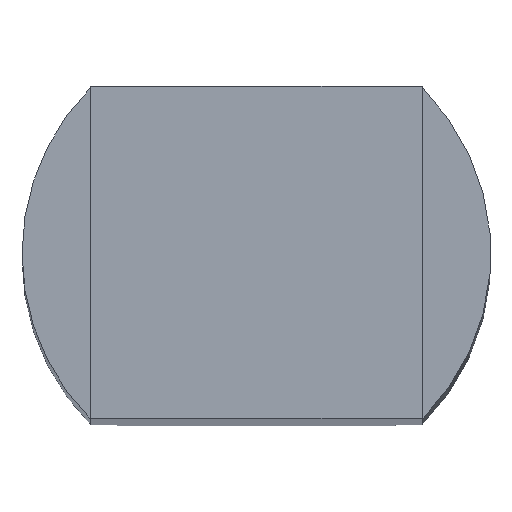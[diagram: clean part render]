
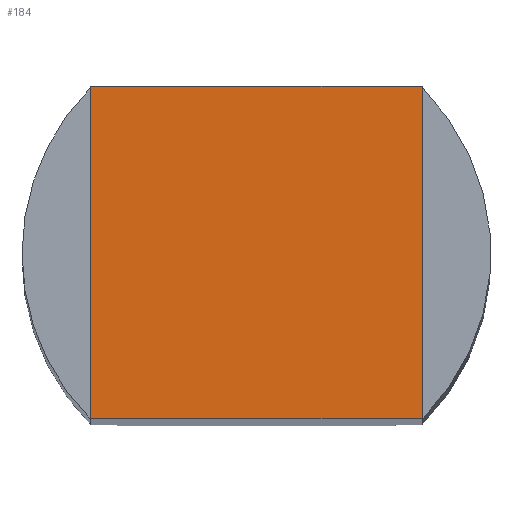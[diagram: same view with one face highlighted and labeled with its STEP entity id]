
A CAD part, top view. The second image highlights one B-rep face of the part: STEP entity #184.
In plain terms, the highlighted planar face has unit normal (0, 0, 1).
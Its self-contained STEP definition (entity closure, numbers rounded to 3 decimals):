
#3 = CARTESIAN_POINT ( 'NONE',  ( -2.296, -2.3, 58.3 ) ) ;
#7 = VERTEX_POINT ( 'NONE', #754 ) ;
#26 = CARTESIAN_POINT ( 'NONE',  ( -2.3, 2.296, 58.3 ) ) ;
#42 = CARTESIAN_POINT ( 'NONE',  ( 0., 0., 58.3 ) ) ;
#59 = VECTOR ( 'NONE', #802, 1000. ) ;
#77 = LINE ( 'NONE', #806, #486 ) ;
#91 = CARTESIAN_POINT ( 'NONE',  ( 0., 0., 58.3 ) ) ;
#94 = CIRCLE ( 'NONE', #354, 3.25 ) ;
#95 = PLANE ( 'NONE',  #604 ) ;
#159 = ORIENTED_EDGE ( 'NONE', *, *, #309, .T. ) ;
#161 = FACE_OUTER_BOUND ( 'NONE', #634, .T. ) ;
#181 = CARTESIAN_POINT ( 'NONE',  ( 2.3, 2.3, 58.3 ) ) ;
#184 = ADVANCED_FACE ( 'NONE', ( #161 ), #95, .T. ) ;
#197 = EDGE_CURVE ( 'NONE', #7, #492, #582, .T. ) ;
#201 = VECTOR ( 'NONE', #611, 1000. ) ;
#209 = DIRECTION ( 'NONE',  ( 0., 0., 1. ) ) ;
#218 = DIRECTION ( 'NONE',  ( 1., 0., 0. ) ) ;
#225 = ORIENTED_EDGE ( 'NONE', *, *, #615, .T. ) ;
#266 = CARTESIAN_POINT ( 'NONE',  ( -2.296, 2.3, 58.3 ) ) ;
#275 = CARTESIAN_POINT ( 'NONE',  ( 0., 0., 58.3 ) ) ;
#282 = CARTESIAN_POINT ( 'NONE',  ( -2.3, -2.3, 58.3 ) ) ;
#289 = DIRECTION ( 'NONE',  ( 0., 0., 1. ) ) ;
#298 = VERTEX_POINT ( 'NONE', #458 ) ;
#309 = EDGE_CURVE ( 'NONE', #752, #298, #793, .T. ) ;
#321 = ORIENTED_EDGE ( 'NONE', *, *, #808, .F. ) ;
#354 = AXIS2_PLACEMENT_3D ( 'NONE', #42, #289, #669 ) ;
#356 = CARTESIAN_POINT ( 'NONE',  ( 2.296, -2.3, 58.3 ) ) ;
#370 = AXIS2_PLACEMENT_3D ( 'NONE', #91, #785, #218 ) ;
#373 = ORIENTED_EDGE ( 'NONE', *, *, #197, .T. ) ;
#380 = EDGE_CURVE ( 'NONE', #752, #492, #77, .T. ) ;
#389 = CIRCLE ( 'NONE', #423, 3.25 ) ;
#390 = DIRECTION ( 'NONE',  ( 0., -1., 0. ) ) ;
#396 = CARTESIAN_POINT ( 'NONE',  ( 0., 0., 58.3 ) ) ;
#405 = ORIENTED_EDGE ( 'NONE', *, *, #675, .T. ) ;
#407 = DIRECTION ( 'NONE',  ( -1., 0., 0. ) ) ;
#423 = AXIS2_PLACEMENT_3D ( 'NONE', #573, #209, #646 ) ;
#435 = VERTEX_POINT ( 'NONE', #702 ) ;
#454 = DIRECTION ( 'NONE',  ( 0., 0., 1. ) ) ;
#458 = CARTESIAN_POINT ( 'NONE',  ( 2.3, -2.296, 58.3 ) ) ;
#462 = DIRECTION ( 'NONE',  ( 0., 0., 1. ) ) ;
#486 = VECTOR ( 'NONE', #407, 1000. ) ;
#492 = VERTEX_POINT ( 'NONE', #3 ) ;
#556 = VECTOR ( 'NONE', #390, 1000. ) ;
#563 = EDGE_CURVE ( 'NONE', #708, #298, #664, .T. ) ;
#565 = VERTEX_POINT ( 'NONE', #26 ) ;
#573 = CARTESIAN_POINT ( 'NONE',  ( 0., 0., 58.3 ) ) ;
#581 = DIRECTION ( 'NONE',  ( 1., 0., 0. ) ) ;
#582 = CIRCLE ( 'NONE', #370, 3.25 ) ;
#586 = VERTEX_POINT ( 'NONE', #266 ) ;
#598 = ORIENTED_EDGE ( 'NONE', *, *, #380, .F. ) ;
#599 = ORIENTED_EDGE ( 'NONE', *, *, #665, .F. ) ;
#604 = AXIS2_PLACEMENT_3D ( 'NONE', #275, #462, #581 ) ;
#611 = DIRECTION ( 'NONE',  ( 1., 0., 0. ) ) ;
#615 = EDGE_CURVE ( 'NONE', #708, #435, #389, .T. ) ;
#634 = EDGE_LOOP ( 'NONE', ( #225, #321, #405, #599, #373, #598, #159, #693 ) ) ;
#642 = AXIS2_PLACEMENT_3D ( 'NONE', #396, #454, #718 ) ;
#646 = DIRECTION ( 'NONE',  ( 1., 0., 0. ) ) ;
#664 = LINE ( 'NONE', #778, #556 ) ;
#665 = EDGE_CURVE ( 'NONE', #7, #565, #744, .T. ) ;
#669 = DIRECTION ( 'NONE',  ( 1., 0., 0. ) ) ;
#673 = CARTESIAN_POINT ( 'NONE',  ( 2.3, 2.296, 58.3 ) ) ;
#675 = EDGE_CURVE ( 'NONE', #586, #565, #94, .T. ) ;
#693 = ORIENTED_EDGE ( 'NONE', *, *, #563, .F. ) ;
#702 = CARTESIAN_POINT ( 'NONE',  ( 2.296, 2.3, 58.3 ) ) ;
#708 = VERTEX_POINT ( 'NONE', #673 ) ;
#718 = DIRECTION ( 'NONE',  ( 1., 0., 0. ) ) ;
#744 = LINE ( 'NONE', #282, #59 ) ;
#752 = VERTEX_POINT ( 'NONE', #356 ) ;
#754 = CARTESIAN_POINT ( 'NONE',  ( -2.3, -2.296, 58.3 ) ) ;
#764 = LINE ( 'NONE', #181, #201 ) ;
#778 = CARTESIAN_POINT ( 'NONE',  ( 2.3, -2.3, 58.3 ) ) ;
#785 = DIRECTION ( 'NONE',  ( 0., 0., 1. ) ) ;
#793 = CIRCLE ( 'NONE', #642, 3.25 ) ;
#802 = DIRECTION ( 'NONE',  ( 0., 1., 0. ) ) ;
#806 = CARTESIAN_POINT ( 'NONE',  ( 2.3, -2.3, 58.3 ) ) ;
#808 = EDGE_CURVE ( 'NONE', #586, #435, #764, .T. ) ;
